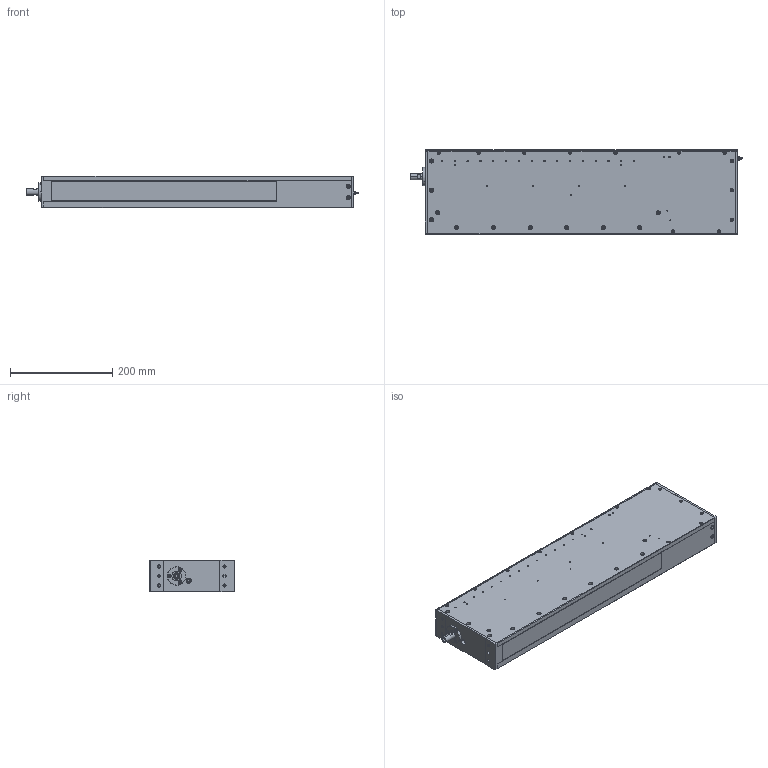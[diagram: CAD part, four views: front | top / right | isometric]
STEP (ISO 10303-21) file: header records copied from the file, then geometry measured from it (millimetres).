
FILE_DESCRIPTION (( 'STEP AP203' ), '1' );
FILE_NAME ('LBR62-300-XX-3_D_STD CON.STEP', '2020-07-24T22:50:30', ( '' ), ( '' ), 'SwSTEP 2.0', 'SolidWorks 2020', '' );
FILE_SCHEMA (( 'CONFIG_CONTROL_DESIGN' ));
Length unit declared in the file: millimetre
Products named in the file (17): 406271-34_A_STEP; 22525-06_A; 48002-00_A; 210132-01_A; 230126-301_B; 230126-300_B; LBR62-300-XX-3_D_STD CON; 180109-01_B; 140273-300_B; 110120-300_B; 56002-01, JACK SCREW, 4-40X3_16; 220208-01_A; 22525-01_D; 110121-300_B; 110118-02_D; 47014-00_A; 110139-01_A
Assembly tree (17 placements, depth 4):
  LBR62-300-XX-3_D_STD CON
    110118-02_D
    180109-01_B
    406271-34_A_STEP
      110139-01_A
      22525-06_A
        22525-01_D
      56002-01, JACK SCREW, 4-40X3_16  x2
      47014-00_A
    140273-300_B
    220208-01_A
    48002-00_A
    110120-300_B
    230126-300_B
    230126-301_B
    110121-300_B
    210132-01_A
Bounding box: 648 x 165 x 62.01 mm (x, y, z)
Volume: 2456190.6 mm3; surface area: 796322.4 mm2
Topology: 15 solids, 15 shells, 1709 faces, 4207 edges, 2572 vertices
Faces by surface type: cylinder 847, cone 497, plane 355, bspline 10
Entity records: 51416 total; most frequent: CARTESIAN_POINT 9749, DIRECTION 8948, ORIENTED_EDGE 7772, EDGE_CURVE 3886, AXIS2_PLACEMENT_3D 3568, VERTEX_POINT 2450, EDGE_LOOP 2162, CIRCLE 1916
